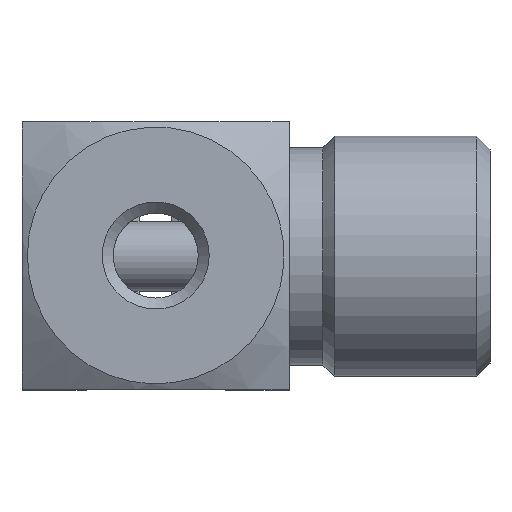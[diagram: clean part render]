
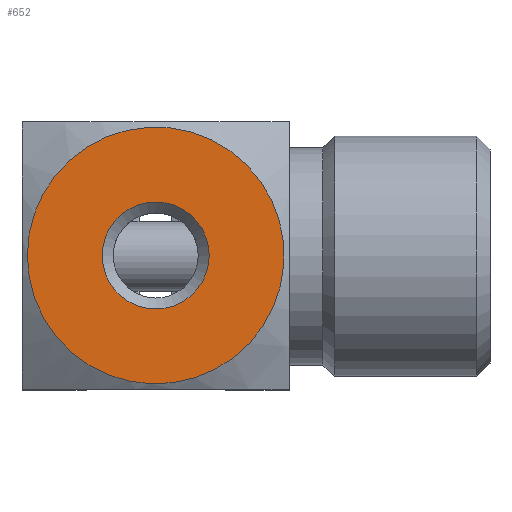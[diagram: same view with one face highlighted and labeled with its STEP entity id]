
A CAD part, top view. The second image highlights one B-rep face of the part: STEP entity #652.
In plain terms, the highlighted planar face has unit normal (0, 0, 1).
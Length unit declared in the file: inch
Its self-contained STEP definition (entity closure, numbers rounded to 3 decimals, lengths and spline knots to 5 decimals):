
#625=CARTESIAN_POINT('',(3.84768,15.30512,-29.85083));
#626=DIRECTION('',(0.0,0.0,-1.0));
#627=DIRECTION('',(1.0,0.0,0.0));
#628=AXIS2_PLACEMENT_3D('',#625,#626,#627);
#629=PLANE('',#628);
#630=CARTESIAN_POINT('',(3.85768,15.30512,-29.85083));
#631=VERTEX_POINT('',#630);
#632=CARTESIAN_POINT('',(4.09768,15.30512,-29.85083));
#633=DIRECTION('',(0.0,0.0,1.0));
#634=DIRECTION('',(-1.0,0.0,0.0));
#635=AXIS2_PLACEMENT_3D('',#632,#633,#634);
#636=CIRCLE('',#635,0.24);
#637=EDGE_CURVE('',#631,#631,#636,.T.);
#638=ORIENTED_EDGE('',*,*,#637,.T.);
#639=EDGE_LOOP('',(#638));
#640=FACE_OUTER_BOUND('',#639,.T.);
#641=CARTESIAN_POINT('',(3.99768,15.30512,-29.85083));
#642=VERTEX_POINT('',#641);
#643=CARTESIAN_POINT('',(4.09768,15.30512,-29.85083));
#644=DIRECTION('',(0.0,0.0,1.0));
#645=DIRECTION('',(-1.0,0.0,0.0));
#646=AXIS2_PLACEMENT_3D('',#643,#644,#645);
#647=CIRCLE('',#646,0.1);
#648=EDGE_CURVE('',#642,#642,#647,.T.);
#649=ORIENTED_EDGE('',*,*,#648,.F.);
#650=EDGE_LOOP('',(#649));
#651=FACE_BOUND('',#650,.T.);
#652=ADVANCED_FACE('',(#640,#651),#629,.F.);
